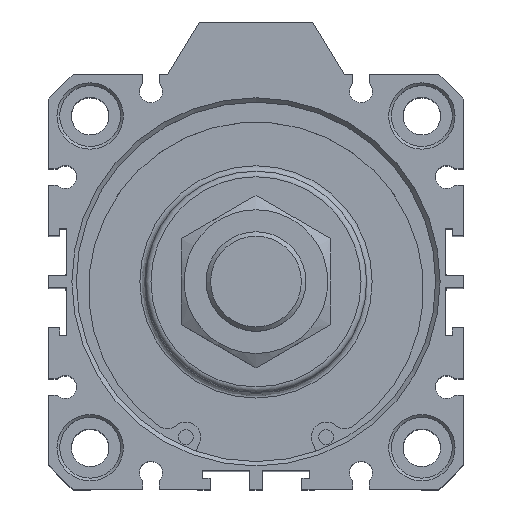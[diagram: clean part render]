
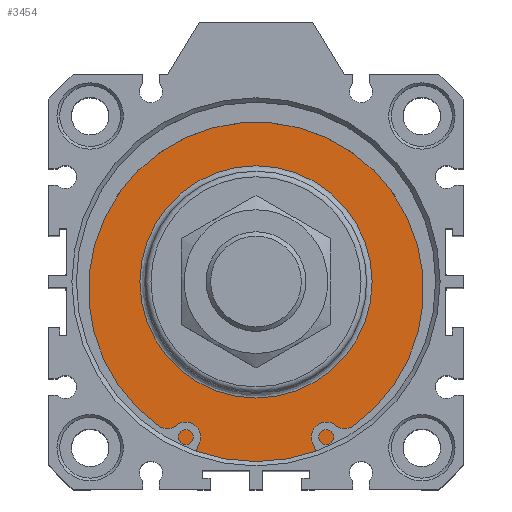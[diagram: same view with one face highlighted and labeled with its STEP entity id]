
A CAD part, top view. The second image highlights one B-rep face of the part: STEP entity #3454.
In plain terms, the highlighted planar face has unit normal (0, 0, 1).
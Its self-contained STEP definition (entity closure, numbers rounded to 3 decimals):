
#3403=CARTESIAN_POINT('',(2.99,22.555,77.3));
#3404=VERTEX_POINT('',#3403);
#3405=CARTESIAN_POINT('',(2.99,1.555,77.3));
#3406=DIRECTION('',(0.0,0.0,1.0));
#3407=DIRECTION('',(0.0,-1.0,0.0));
#3408=AXIS2_PLACEMENT_3D('',#3405,#3406,#3407);
#3409=CIRCLE('',#3408,21.);
#3410=EDGE_CURVE('',#3404,#3404,#3409,.T.);
#3435=CARTESIAN_POINT('',(2.99,27.805,77.3));
#3436=DIRECTION('',(0.0,0.0,1.0));
#3437=DIRECTION('',(1.0,0.0,0.0));
#3438=AXIS2_PLACEMENT_3D('',#3435,#3436,#3437);
#3439=PLANE('',#3438);
#3440=CARTESIAN_POINT('',(2.99,34.055,77.3));
#3441=VERTEX_POINT('',#3440);
#3442=CARTESIAN_POINT('',(2.99,1.555,77.3));
#3443=DIRECTION('',(0.0,0.0,-1.0));
#3444=DIRECTION('',(0.0,1.0,0.0));
#3445=AXIS2_PLACEMENT_3D('',#3442,#3443,#3444);
#3446=CIRCLE('',#3445,32.5);
#3447=EDGE_CURVE('',#3441,#3441,#3446,.T.);
#3448=ORIENTED_EDGE('',*,*,#3447,.F.);
#3449=EDGE_LOOP('',(#3448));
#3450=FACE_OUTER_BOUND('',#3449,.T.);
#3451=ORIENTED_EDGE('',*,*,#3410,.F.);
#3452=EDGE_LOOP('',(#3451));
#3453=FACE_BOUND('',#3452,.T.);
#3454=ADVANCED_FACE('',(#3450,#3453),#3439,.T.);
